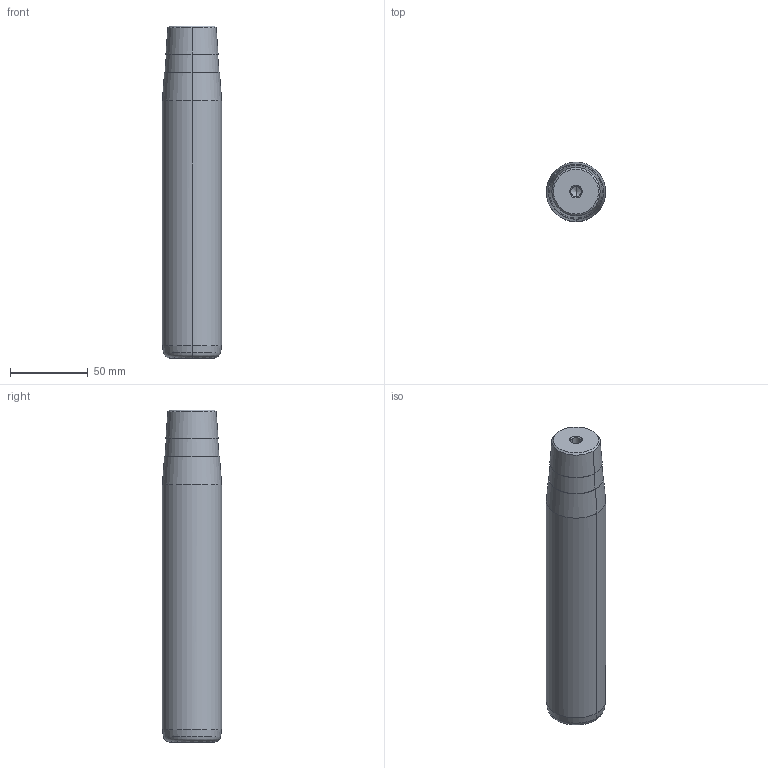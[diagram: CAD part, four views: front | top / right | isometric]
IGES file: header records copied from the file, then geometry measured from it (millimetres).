
Start section: START RECORD GO HERE.
Global section: file name: 722-38x180x213.igs; native system: DASSAULT SYSTEMES CATIA V5 R20 - www.3ds.com; preprocessor: CATIA Version 5 Release 20 ; author: Utente; organization: NB04-ASUS; date: 20210108.170419; units: millimetre
Bounding box: 38 x 38 x 213 mm (x, y, z)
Surface area: 27555.5 mm2 (no closed solid volume)
Topology: 0 solids, 0 shells, 32 faces, 192 edges, 188 vertices
Faces by surface type: revolution 30, plane 2
